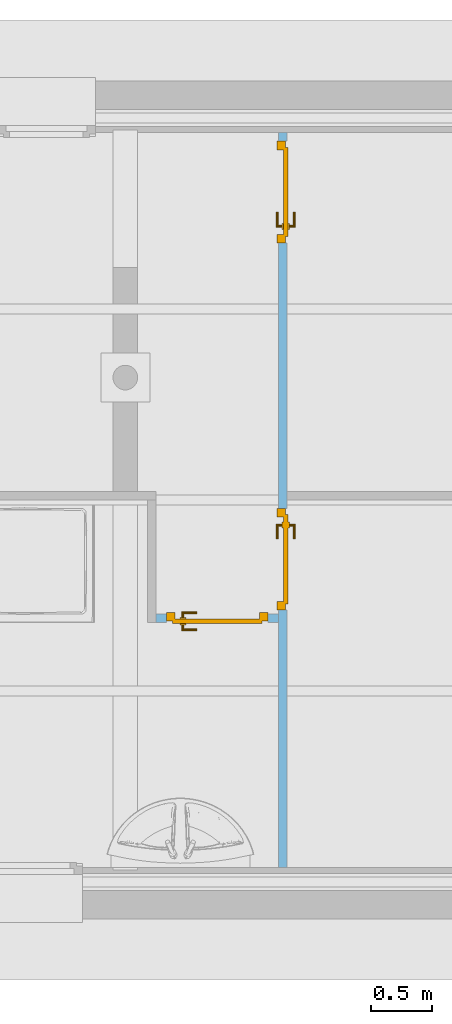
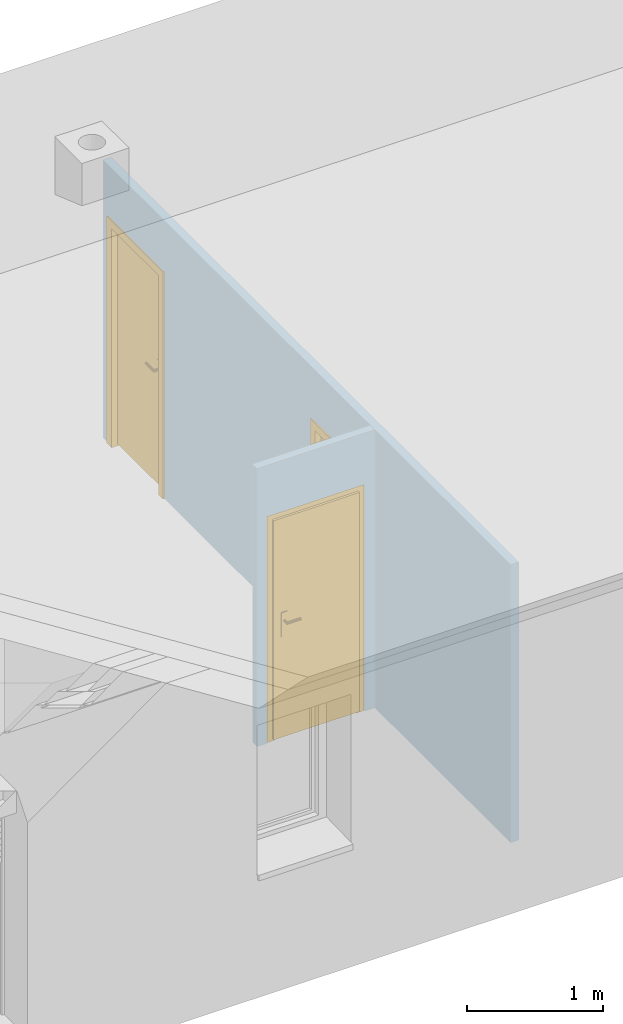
# One storey, part 5 of 7: 3 doors, 3 openings, plus 2 elements that do not belong to this part.
"""IFC4 building model written with IfcOpenShell, lengths in metres."""

from ifc_helpers import new_model, entity, si_unit, converted_unit, frame, frame_2d, origin, origin_with_axes, place, context, subcontext, project, spatial, polyline, rectangle, outline, extrude, faceted_brep, source, transform, mapped, material, layer, layer_set, layer_usage, type_object, element, fill, save


model = new_model("IFC4")

# Units and contexts
model_context = context("Model", 3, precision=1e-05, world=origin())
body_context = subcontext(model_context, "Body", "Model", "MODEL_VIEW")
ifc_project = project(units=[si_unit("LENGTHUNIT", "METRE"), si_unit("AREAUNIT", "SQUARE_METRE"), si_unit("VOLUMEUNIT", "CUBIC_METRE"), si_unit("MASSUNIT", "GRAM", prefix="KILO"), converted_unit("PLANEANGLEUNIT", "DEGREE", entity("IfcPlaneAngleMeasure", 0.0174532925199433), si_unit("PLANEANGLEUNIT", "RADIAN"), dimensions=[0, 0, 0, 0, 0, 0, 0])], contexts=[model_context])

# Building, storey
building_placement = place(None, origin())
building = spatial("IfcBuilding", under=ifc_project, at=building_placement, Name="Projet de Construction", CompositionType="ELEMENT")
storey_placement = place(building_placement, frame((0.0, 0.0, 2.8)))
storey = spatial("IfcBuildingStorey", under=building, at=storey_placement, Name="R+1", CompositionType="ELEMENT", Elevation=2.8)

# Wall, opening, door
ifc_material_1 = material()
ifc_layer_1 = layer(ifc_material_1, 0.07)
ifc_layer_set_1 = layer_set([ifc_layer_1])
ifc_layer_usage_1 = layer_usage(ifc_layer_set_1, "AXIS2", "POSITIVE", 0.0)
wall_1_placement = place(storey_placement, frame((-0.615937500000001, 3.78979166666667, 0.3), z_axis=(0.0, 0.0, 1.0), x_axis=(-1.0, 0.0, 0.0)))
wall_1 = element("IfcWall", 1, at=wall_1_placement, inside=storey, material=ifc_layer_usage_1, context=body_context, shape_type="SweptSolid", body=[
    extrude(rectangle(XDim=0.999999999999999, YDim=0.07, at=frame_2d((0.5, 0.035), x_axis=(1.0, 0.0))), origin_with_axes(), (0.0, 0.0, 1.0), 2.5),
])
opening_1_placement = place(wall_1_placement, frame((0.915, 0.07, 0.0), z_axis=(0.0, -1.0, 0.0), x_axis=(0.0, 0.0, 1.0)))
opening_1 = element("IfcOpeningStandardCase", 2, at=opening_1_placement, cuts=wall_1, Name="Baie de porte", PredefinedType="OPENING", context=body_context, shape_type="SweptSolid", body=[
    extrude(outline(polyline([(0.0, 0.83), (2.04, 0.83), (2.04, 0.0), (0.0, 0.0), (0.0, 0.83)])), origin_with_axes(), (0.0, 0.0, 1.0), 0.07),
])
ifc_material_2 = material()
door_type_1 = type_object("IfcDoorType", Name="1 vantail sol fini, en bois", OperationType="SINGLE_SWING_RIGHT", ParameterTakesPrecedence=False, PredefinedType="DOOR")
shared_shape_1 = source(origin_with_axes(), body_context, "Body", "Brep", [
    faceted_brep([(0.83, 0.0700000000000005, 2.04), (0.76, 0.0700000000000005, 2.04), (0.76, 0.07, 0.0), (0.83, 0.07, 0.0), (0.83, 0.0, 0.0), (0.76, 0.0, 0.0), (0.76, 4.54747350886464e-16, 2.04), (0.83, 4.54747350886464e-16, 2.04)], [[[0, 1, 2, 3]], [[4, 5, 6, 7]], [[3, 4, 7, 0]], [[2, 5, 4, 3]], [[1, 6, 5, 2]], [[0, 7, 6, 1]]], orient=[[False], [False], [False], [False], [False], [False]]),
    faceted_brep([(0.07, 0.0700000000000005, 2.04), (0.0, 0.0700000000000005, 2.04), (0.0, 0.07, 0.0), (0.07, 0.07, 0.0), (0.07, 0.0, 0.0), (0.0, 0.0, 0.0), (0.0, 4.54747350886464e-16, 2.04), (0.07, 4.54747350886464e-16, 2.04)], [[[0, 1, 2, 3]], [[4, 5, 6, 7]], [[3, 4, 7, 0]], [[2, 5, 4, 3]], [[1, 6, 5, 2]], [[0, 7, 6, 1]]], orient=[[False], [False], [False], [False], [False], [False]]),
    faceted_brep([(0.76, 0.0700000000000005, 2.04), (0.07, 0.0700000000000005, 2.04), (0.07, 0.0700000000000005, 1.97), (0.76, 0.0700000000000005, 1.97), (0.76, 4.54747350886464e-16, 1.97), (0.07, 4.54747350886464e-16, 1.97), (0.07, 4.54747350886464e-16, 2.04), (0.76, 4.54747350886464e-16, 2.04)], [[[0, 1, 2, 3]], [[4, 5, 6, 7]], [[3, 4, 7, 0]], [[2, 5, 4, 3]], [[1, 6, 5, 2]], [[0, 7, 6, 1]]], orient=[[False], [False], [False], [False], [False], [False]]),
    faceted_brep([(0.78, 0.0900000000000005, 1.99), (0.05, 0.0900000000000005, 1.99), (0.05, 0.09, 0.021), (0.78, 0.09, 0.021), (0.78, 0.05, 0.021), (0.05, 0.05, 0.021), (0.05, 0.0500000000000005, 1.99), (0.78, 0.0500000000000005, 1.99)], [[[0, 1, 2, 3]], [[4, 5, 6, 7]], [[3, 4, 7, 0]], [[2, 5, 4, 3]], [[1, 6, 5, 2]], [[0, 7, 6, 1]]], orient=[[False], [False], [False], [False], [False], [False]]),
    faceted_brep([(0.72, 0.05, 1.146), (0.67, 0.05, 1.146), (0.67, 0.05, 0.931), (0.72, 0.05, 0.931), (0.72, 0.04, 0.931), (0.67, 0.04, 0.931), (0.67, 0.04, 1.146), (0.72, 0.04, 1.146)], [[[0, 1, 2, 3]], [[4, 5, 6, 7]], [[3, 4, 7, 0]], [[2, 5, 4, 3]], [[1, 6, 5, 2]], [[0, 7, 6, 1]]], orient=[[False], [False], [False], [False], [False], [False]]),
    faceted_brep([(0.695, 0.04, 1.081), (0.69, 0.04, 1.07966025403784), (0.686339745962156, 0.04, 1.076), (0.685, 0.04, 1.071), (0.686339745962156, 0.04, 1.066), (0.69, 0.04, 1.06233974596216), (0.695, 0.04, 1.061), (0.7, 0.04, 1.06233974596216), (0.703660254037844, 0.04, 1.066), (0.705, 0.04, 1.071), (0.703660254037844, 0.04, 1.076), (0.7, 0.04, 1.07966025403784), (0.7, -0.005, 1.07966025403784), (0.695, 0.0, 1.081), (0.703660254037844, -0.00866025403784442, 1.076), (0.705, -0.01, 1.071), (0.703660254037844, -0.00866025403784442, 1.066), (0.7, -0.005, 1.06233974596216), (0.695, 0.0, 1.061), (0.69, 0.005, 1.06233974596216), (0.686339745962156, 0.00866025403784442, 1.066), (0.685, 0.01, 1.071), (0.686339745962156, 0.00866025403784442, 1.076), (0.69, 0.005, 1.07966025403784), (0.58, 0.0, 1.081), (0.58, -0.005, 1.07966025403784), (0.58, -0.00866025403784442, 1.076), (0.58, -0.01, 1.071), (0.58, -0.00866025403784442, 1.066), (0.58, -0.005, 1.06233974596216), (0.58, 0.0, 1.061), (0.58, 0.005, 1.06233974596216), (0.58, 0.00866025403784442, 1.066), (0.58, 0.01, 1.071), (0.58, 0.00866025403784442, 1.076), (0.58, 0.005, 1.07966025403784)], [[[0, 1, 2, 3, 4, 5, 6, 7, 8, 9, 10, 11]], [[0, 11, 12, 13]], [[11, 10, 14, 12]], [[10, 9, 15, 14]], [[9, 8, 16, 15]], [[8, 7, 17, 16]], [[7, 6, 18, 17]], [[6, 5, 19, 18]], [[5, 4, 20, 19]], [[4, 3, 21, 20]], [[3, 2, 22, 21]], [[2, 1, 23, 22]], [[1, 0, 13, 23]], [[24, 25, 26, 27, 28, 29, 30, 31, 32, 33, 34, 35]], [[13, 12, 25, 24]], [[12, 14, 26, 25]], [[14, 15, 27, 26]], [[15, 16, 28, 27]], [[16, 17, 29, 28]], [[17, 18, 30, 29]], [[18, 19, 31, 30]], [[19, 20, 32, 31]], [[20, 21, 33, 32]], [[21, 22, 34, 33]], [[22, 23, 35, 34]], [[23, 13, 24, 35]]], orient=[[False], [False], [False], [False], [False], [False], [False], [False], [False], [False], [False], [False], [False], [False], [False], [False], [False], [False], [False], [False], [False], [False], [False], [False], [False], [False]]),
    faceted_brep([(0.72, 0.09, 1.146), (0.72, 0.09, 0.931), (0.67, 0.09, 0.931), (0.67, 0.09, 1.146), (0.72, 0.1, 0.931), (0.72, 0.1, 1.146), (0.67, 0.1, 1.146), (0.67, 0.1, 0.931)], [[[0, 1, 2, 3]], [[4, 5, 6, 7]], [[1, 0, 5, 4]], [[2, 1, 4, 7]], [[3, 2, 7, 6]], [[0, 3, 6, 5]]], orient=[[False], [False], [False], [False], [False], [False]]),
    faceted_brep([(0.695, 0.1, 1.081), (0.7, 0.1, 1.07966025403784), (0.703660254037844, 0.1, 1.076), (0.705, 0.1, 1.071), (0.703660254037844, 0.1, 1.066), (0.7, 0.1, 1.06233974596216), (0.695, 0.1, 1.061), (0.69, 0.1, 1.06233974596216), (0.686339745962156, 0.1, 1.066), (0.685, 0.1, 1.071), (0.686339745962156, 0.1, 1.076), (0.69, 0.1, 1.07966025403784), (0.695, 0.14, 1.081), (0.7, 0.145, 1.07966025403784), (0.703660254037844, 0.148660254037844, 1.076), (0.705, 0.15, 1.071), (0.703660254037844, 0.148660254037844, 1.066), (0.7, 0.145, 1.06233974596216), (0.695, 0.14, 1.061), (0.69, 0.135, 1.06233974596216), (0.686339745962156, 0.131339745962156, 1.066), (0.685, 0.13, 1.071), (0.686339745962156, 0.131339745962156, 1.076), (0.69, 0.135, 1.07966025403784), (0.58, 0.14, 1.081), (0.58, 0.135, 1.07966025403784), (0.58, 0.131339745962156, 1.076), (0.58, 0.13, 1.071), (0.58, 0.131339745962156, 1.066), (0.58, 0.135, 1.06233974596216), (0.58, 0.14, 1.061), (0.58, 0.145, 1.06233974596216), (0.58, 0.148660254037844, 1.066), (0.58, 0.15, 1.071), (0.58, 0.148660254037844, 1.076), (0.58, 0.145, 1.07966025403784)], [[[0, 1, 2, 3, 4, 5, 6, 7, 8, 9, 10, 11]], [[0, 12, 13, 1]], [[1, 13, 14, 2]], [[2, 14, 15, 3]], [[3, 15, 16, 4]], [[4, 16, 17, 5]], [[5, 17, 18, 6]], [[6, 18, 19, 7]], [[7, 19, 20, 8]], [[8, 20, 21, 9]], [[9, 21, 22, 10]], [[10, 22, 23, 11]], [[11, 23, 12, 0]], [[24, 25, 26, 27, 28, 29, 30, 31, 32, 33, 34, 35]], [[12, 24, 35, 13]], [[13, 35, 34, 14]], [[14, 34, 33, 15]], [[15, 33, 32, 16]], [[16, 32, 31, 17]], [[17, 31, 30, 18]], [[18, 30, 29, 19]], [[19, 29, 28, 20]], [[20, 28, 27, 21]], [[21, 27, 26, 22]], [[22, 26, 25, 23]], [[23, 25, 24, 12]]], orient=[[False], [False], [False], [False], [False], [False], [False], [False], [False], [False], [False], [False], [False], [False], [False], [False], [False], [False], [False], [False], [False], [False], [False], [False], [False], [False]]),
])
door_1_placement = place(opening_1_placement, frame((0.0, 0.83, 0.08), z_axis=(1.0, 0.0, 0.0), x_axis=(0.0, -1.0, 0.0)))
door_1 = element("IfcDoor", 3, at=door_1_placement, inside=storey, type_object=door_type_1, material=ifc_material_2, Name="1 vantail sol fini, en bois", OverallHeight=2.04, OverallWidth=0.83, context=body_context, shape_type="MappedRepresentation", body=[
    mapped(shared_shape_1, transform((0.0, 0.0, 0.0), x_axis=(1.0, 0.0, 0.0), y_axis=(0.0, 1.0, 0.0), z_axis=(0.0, 0.0, 1.0), scale=1.0)),
])
fill(opening_1, door_1)

# Wall, openings, doors
ifc_material_3 = material()
ifc_layer_2 = layer(ifc_material_3, 0.07)
ifc_layer_set_2 = layer_set([ifc_layer_2])
ifc_layer_usage_2 = layer_usage(ifc_layer_set_2, "AXIS2", "POSITIVE", 0.0)
wall_2_placement = place(storey_placement, frame((-0.6159375, 7.71979166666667, 0.3), z_axis=(0.0, 0.0, 1.0), x_axis=(-1.8947806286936e-16, -1.0, 0.0)))
wall_2 = element("IfcWall", 4, at=wall_2_placement, inside=storey, material=ifc_layer_usage_2, context=body_context, shape_type="SweptSolid", body=[
    extrude(rectangle(XDim=6.0, YDim=0.07, at=frame_2d((3.0, 0.035), x_axis=(1.0, 0.0))), origin_with_axes(), (0.0, 0.0, 1.0), 2.5),
])
opening_2_placement = place(wall_2_placement, frame((0.0699999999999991, 1.3263464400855e-17, 0.0), z_axis=(-2.03012210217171e-16, 1.0, 0.0), x_axis=(0.0, 0.0, 1.0)))
opening_2 = element("IfcOpeningStandardCase", 5, at=opening_2_placement, cuts=wall_2, Name="Baie de porte", PredefinedType="OPENING", context=body_context, shape_type="SweptSolid", body=[
    extrude(outline(polyline([(0.0, 0.83), (2.04, 0.83), (2.04, 0.0), (0.0, 0.0), (0.0, 0.83)])), origin_with_axes(), (0.0, 0.0, 1.0), 0.07),
])
opening_3_placement = place(wall_2_placement, frame((3.9, 0.0700000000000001, 0.0), z_axis=(0.0, -1.0, 0.0), x_axis=(0.0, 0.0, 1.0)))
opening_3 = element("IfcOpeningStandardCase", 6, at=opening_3_placement, cuts=wall_2, Name="Baie de porte", PredefinedType="OPENING", context=body_context, shape_type="SweptSolid", body=[
    extrude(outline(polyline([(0.0, 0.83), (2.04, 0.83), (2.04, 0.0), (0.0, 0.0), (0.0, 0.83)])), origin_with_axes(), (0.0, 0.0, 1.0), 0.07),
])
ifc_material_4 = material()
door_type_2 = type_object("IfcDoorType", Name="1 vantail sol fini, en bois", OperationType="SINGLE_SWING_RIGHT", ParameterTakesPrecedence=False, PredefinedType="DOOR")
shared_shape_2 = source(origin_with_axes(), body_context, "Body", "Brep", [
    faceted_brep([(0.83, 0.0700000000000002, 2.04), (0.76, 0.0700000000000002, 2.04), (0.76, 0.07, 0.0), (0.83, 0.07, 0.0), (0.83, 0.0, 0.0), (0.76, 0.0, 0.0), (0.76, 2.27373675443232e-16, 2.04), (0.83, 2.27373675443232e-16, 2.04)], [[[0, 1, 2, 3]], [[4, 5, 6, 7]], [[3, 4, 7, 0]], [[2, 5, 4, 3]], [[1, 6, 5, 2]], [[0, 7, 6, 1]]], orient=[[False], [False], [False], [False], [False], [False]]),
    faceted_brep([(0.07, 0.07, 2.04), (0.0, 0.07, 2.04), (0.0, 0.0699999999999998, 0.0), (0.07, 0.0699999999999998, 0.0), (0.07, -2.27373675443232e-16, 0.0), (0.0, -2.27373675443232e-16, 0.0), (0.0, 0.0, 2.04), (0.07, 0.0, 2.04)], [[[0, 1, 2, 3]], [[4, 5, 6, 7]], [[3, 4, 7, 0]], [[2, 5, 4, 3]], [[1, 6, 5, 2]], [[0, 7, 6, 1]]], orient=[[False], [False], [False], [False], [False], [False]]),
    faceted_brep([(0.76, 0.0700000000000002, 2.04), (0.07, 0.07, 2.04), (0.07, 0.07, 1.97), (0.76, 0.0700000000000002, 1.97), (0.76, 2.27373675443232e-16, 1.97), (0.07, 0.0, 1.97), (0.07, 0.0, 2.04), (0.76, 2.27373675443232e-16, 2.04)], [[[0, 1, 2, 3]], [[4, 5, 6, 7]], [[3, 4, 7, 0]], [[2, 5, 4, 3]], [[1, 6, 5, 2]], [[0, 7, 6, 1]]], orient=[[False], [False], [False], [False], [False], [False]]),
    faceted_brep([(0.78, 0.0900000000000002, 1.99), (0.05, 0.09, 1.99), (0.05, 0.0899999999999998, 0.021), (0.78, 0.09, 0.021), (0.78, 0.05, 0.021), (0.05, 0.0499999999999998, 0.021), (0.05, 0.05, 1.99), (0.78, 0.0500000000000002, 1.99)], [[[0, 1, 2, 3]], [[4, 5, 6, 7]], [[3, 4, 7, 0]], [[2, 5, 4, 3]], [[1, 6, 5, 2]], [[0, 7, 6, 1]]], orient=[[False], [False], [False], [False], [False], [False]]),
    faceted_brep([(0.72, 0.0500000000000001, 1.146), (0.67, 0.0500000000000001, 1.146), (0.67, 0.0500000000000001, 0.931), (0.72, 0.0500000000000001, 0.931), (0.72, 0.0400000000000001, 0.931), (0.67, 0.0400000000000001, 0.931), (0.67, 0.0400000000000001, 1.146), (0.72, 0.0400000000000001, 1.146)], [[[0, 1, 2, 3]], [[4, 5, 6, 7]], [[3, 4, 7, 0]], [[2, 5, 4, 3]], [[1, 6, 5, 2]], [[0, 7, 6, 1]]], orient=[[False], [False], [False], [False], [False], [False]]),
    faceted_brep([(0.695, 0.0400000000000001, 1.081), (0.69, 0.0400000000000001, 1.07966025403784), (0.686339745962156, 0.0400000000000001, 1.076), (0.685, 0.0400000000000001, 1.071), (0.686339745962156, 0.0400000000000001, 1.066), (0.69, 0.0400000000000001, 1.06233974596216), (0.695, 0.0400000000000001, 1.061), (0.7, 0.0400000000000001, 1.06233974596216), (0.703660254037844, 0.0400000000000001, 1.066), (0.705, 0.0400000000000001, 1.071), (0.703660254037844, 0.0400000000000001, 1.076), (0.7, 0.0400000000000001, 1.07966025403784), (0.7, -0.00499999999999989, 1.07966025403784), (0.695, 1.13686837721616e-16, 1.081), (0.703660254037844, -0.00866025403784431, 1.076), (0.705, -0.00999999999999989, 1.071), (0.703660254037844, -0.00866025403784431, 1.066), (0.7, -0.00499999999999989, 1.06233974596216), (0.695, 1.13686837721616e-16, 1.061), (0.69, 0.00500000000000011, 1.06233974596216), (0.686339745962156, 0.00866025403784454, 1.066), (0.685, 0.0100000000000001, 1.071), (0.686339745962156, 0.00866025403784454, 1.076), (0.69, 0.00500000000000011, 1.07966025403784), (0.58, 0.0, 1.081), (0.58, -0.005, 1.07966025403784), (0.58, -0.00866025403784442, 1.076), (0.58, -0.01, 1.071), (0.58, -0.00866025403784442, 1.066), (0.58, -0.005, 1.06233974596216), (0.58, 0.0, 1.061), (0.58, 0.005, 1.06233974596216), (0.58, 0.00866025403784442, 1.066), (0.58, 0.01, 1.071), (0.58, 0.00866025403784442, 1.076), (0.58, 0.005, 1.07966025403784)], [[[0, 1, 2, 3, 4, 5, 6, 7, 8, 9, 10, 11]], [[0, 11, 12, 13]], [[11, 10, 14, 12]], [[10, 9, 15, 14]], [[9, 8, 16, 15]], [[8, 7, 17, 16]], [[7, 6, 18, 17]], [[6, 5, 19, 18]], [[5, 4, 20, 19]], [[4, 3, 21, 20]], [[3, 2, 22, 21]], [[2, 1, 23, 22]], [[1, 0, 13, 23]], [[24, 25, 26, 27, 28, 29, 30, 31, 32, 33, 34, 35]], [[13, 12, 25, 24]], [[12, 14, 26, 25]], [[14, 15, 27, 26]], [[15, 16, 28, 27]], [[16, 17, 29, 28]], [[17, 18, 30, 29]], [[18, 19, 31, 30]], [[19, 20, 32, 31]], [[20, 21, 33, 32]], [[21, 22, 34, 33]], [[22, 23, 35, 34]], [[23, 13, 24, 35]]], orient=[[False], [False], [False], [False], [False], [False], [False], [False], [False], [False], [False], [False], [False], [False], [False], [False], [False], [False], [False], [False], [False], [False], [False], [False], [False], [False]]),
    faceted_brep([(0.72, 0.0900000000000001, 1.146), (0.72, 0.0900000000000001, 0.931), (0.67, 0.0900000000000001, 0.931), (0.67, 0.0900000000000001, 1.146), (0.72, 0.1, 0.931), (0.72, 0.1, 1.146), (0.67, 0.1, 1.146), (0.67, 0.1, 0.931)], [[[0, 1, 2, 3]], [[4, 5, 6, 7]], [[1, 0, 5, 4]], [[2, 1, 4, 7]], [[3, 2, 7, 6]], [[0, 3, 6, 5]]], orient=[[False], [False], [False], [False], [False], [False]]),
    faceted_brep([(0.695, 0.1, 1.081), (0.7, 0.1, 1.07966025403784), (0.703660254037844, 0.1, 1.076), (0.705, 0.1, 1.071), (0.703660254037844, 0.1, 1.066), (0.7, 0.1, 1.06233974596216), (0.695, 0.1, 1.061), (0.69, 0.1, 1.06233974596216), (0.686339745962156, 0.1, 1.066), (0.685, 0.1, 1.071), (0.686339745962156, 0.1, 1.076), (0.69, 0.1, 1.07966025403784), (0.695, 0.14, 1.081), (0.7, 0.145, 1.07966025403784), (0.703660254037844, 0.148660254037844, 1.076), (0.705, 0.15, 1.071), (0.703660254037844, 0.148660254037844, 1.066), (0.7, 0.145, 1.06233974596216), (0.695, 0.14, 1.061), (0.69, 0.135, 1.06233974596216), (0.686339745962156, 0.131339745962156, 1.066), (0.685, 0.13, 1.071), (0.686339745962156, 0.131339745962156, 1.076), (0.69, 0.135, 1.07966025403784), (0.58, 0.14, 1.081), (0.58, 0.135, 1.07966025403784), (0.58, 0.131339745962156, 1.076), (0.58, 0.13, 1.071), (0.58, 0.131339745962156, 1.066), (0.58, 0.135, 1.06233974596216), (0.58, 0.14, 1.061), (0.58, 0.145, 1.06233974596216), (0.58, 0.148660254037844, 1.066), (0.58, 0.15, 1.071), (0.58, 0.148660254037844, 1.076), (0.58, 0.145, 1.07966025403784)], [[[0, 1, 2, 3, 4, 5, 6, 7, 8, 9, 10, 11]], [[0, 12, 13, 1]], [[1, 13, 14, 2]], [[2, 14, 15, 3]], [[3, 15, 16, 4]], [[4, 16, 17, 5]], [[5, 17, 18, 6]], [[6, 18, 19, 7]], [[7, 19, 20, 8]], [[8, 20, 21, 9]], [[9, 21, 22, 10]], [[10, 22, 23, 11]], [[11, 23, 12, 0]], [[24, 25, 26, 27, 28, 29, 30, 31, 32, 33, 34, 35]], [[12, 24, 35, 13]], [[13, 35, 34, 14]], [[14, 34, 33, 15]], [[15, 33, 32, 16]], [[16, 32, 31, 17]], [[17, 31, 30, 18]], [[18, 30, 29, 19]], [[19, 29, 28, 20]], [[20, 28, 27, 21]], [[21, 27, 26, 22]], [[22, 26, 25, 23]], [[23, 25, 24, 12]]], orient=[[False], [False], [False], [False], [False], [False], [False], [False], [False], [False], [False], [False], [False], [False], [False], [False], [False], [False], [False], [False], [False], [False], [False], [False], [False], [False]]),
])
door_2_placement = place(opening_2_placement, frame((0.0, 0.0, -0.01), z_axis=(1.0, 0.0, 0.0), x_axis=(0.0, 1.0, -1.50506240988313e-16)))
door_2 = element("IfcDoor", 7, at=door_2_placement, inside=storey, type_object=door_type_2, material=ifc_material_4, Name="1 vantail sol fini, en bois", OverallHeight=2.04, OverallWidth=0.83, context=body_context, shape_type="MappedRepresentation", body=[
    mapped(shared_shape_2, transform((0.0, 0.0, 0.0), x_axis=(1.0, 0.0, 0.0), y_axis=(0.0, 1.0, 0.0), z_axis=(0.0, 0.0, 1.0), scale=1.0)),
])
fill(opening_2, door_2)
ifc_material_5 = material()
door_type_3 = type_object("IfcDoorType", Name="1 vantail sol fini, en bois", OperationType="SINGLE_SWING_RIGHT", ParameterTakesPrecedence=False, PredefinedType="DOOR")
shared_shape_3 = source(origin_with_axes(), body_context, "Body", "Brep", [
    faceted_brep([(0.0, 0.0699999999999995, 2.04), (0.0, 0.0699999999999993, 0.0), (0.07, 0.0699999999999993, 0.0), (0.07, 0.0699999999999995, 2.04), (0.0, -6.82121026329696e-16, 0.0), (0.0, -4.54747350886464e-16, 2.04), (0.07, -4.54747350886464e-16, 2.04), (0.07, -6.82121026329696e-16, 0.0)], [[[0, 1, 2, 3]], [[4, 5, 6, 7]], [[1, 0, 5, 4]], [[2, 1, 4, 7]], [[3, 2, 7, 6]], [[0, 3, 6, 5]]], orient=[[False], [False], [False], [False], [False], [False]]),
    faceted_brep([(0.76, 0.0699999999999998, 2.04), (0.76, 0.0699999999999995, 0.0), (0.83, 0.0699999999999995, 0.0), (0.83, 0.0699999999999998, 2.04), (0.76, -4.54747350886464e-16, 0.0), (0.76, -2.27373675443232e-16, 2.04), (0.83, -2.27373675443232e-16, 2.04), (0.83, -4.54747350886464e-16, 0.0)], [[[0, 1, 2, 3]], [[4, 5, 6, 7]], [[1, 0, 5, 4]], [[2, 1, 4, 7]], [[3, 2, 7, 6]], [[0, 3, 6, 5]]], orient=[[False], [False], [False], [False], [False], [False]]),
    faceted_brep([(0.07, 0.0699999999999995, 2.04), (0.07, 0.0699999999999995, 1.97), (0.76, 0.0699999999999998, 1.97), (0.76, 0.0699999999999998, 2.04), (0.07, -4.54747350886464e-16, 1.97), (0.07, -4.54747350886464e-16, 2.04), (0.76, -2.27373675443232e-16, 2.04), (0.76, -2.27373675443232e-16, 1.97)], [[[0, 1, 2, 3]], [[4, 5, 6, 7]], [[1, 0, 5, 4]], [[2, 1, 4, 7]], [[3, 2, 7, 6]], [[0, 3, 6, 5]]], orient=[[False], [False], [False], [False], [False], [False]]),
    faceted_brep([(0.05, 0.0899999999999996, 1.99), (0.05, 0.0899999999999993, 0.121), (0.78, 0.0899999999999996, 0.121), (0.78, 0.0899999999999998, 1.99), (0.05, 0.0499999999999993, 0.121), (0.05, 0.0499999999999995, 1.99), (0.78, 0.0499999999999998, 1.99), (0.78, 0.0499999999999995, 0.121)], [[[0, 1, 2, 3]], [[4, 5, 6, 7]], [[1, 0, 5, 4]], [[2, 1, 4, 7]], [[3, 2, 7, 6]], [[0, 3, 6, 5]]], orient=[[False], [False], [False], [False], [False], [False]]),
    faceted_brep([(0.11, 0.0499999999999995, 1.246), (0.11, 0.0499999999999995, 1.031), (0.16, 0.0499999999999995, 1.031), (0.16, 0.0499999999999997, 1.246), (0.11, 0.0399999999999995, 1.031), (0.11, 0.0399999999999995, 1.246), (0.16, 0.0399999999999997, 1.246), (0.16, 0.0399999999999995, 1.031)], [[[0, 1, 2, 3]], [[4, 5, 6, 7]], [[1, 0, 5, 4]], [[2, 1, 4, 7]], [[3, 2, 7, 6]], [[0, 3, 6, 5]]], orient=[[False], [False], [False], [False], [False], [False]]),
    faceted_brep([(0.135, 0.0399999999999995, 1.181), (0.13, 0.0399999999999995, 1.17966025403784), (0.126339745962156, 0.0399999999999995, 1.176), (0.125, 0.0399999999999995, 1.171), (0.126339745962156, 0.0399999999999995, 1.166), (0.13, 0.0399999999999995, 1.16233974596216), (0.135, 0.0399999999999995, 1.161), (0.14, 0.0399999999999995, 1.16233974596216), (0.143660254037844, 0.0399999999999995, 1.166), (0.145, 0.0399999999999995, 1.171), (0.143660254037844, 0.0399999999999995, 1.176), (0.14, 0.0399999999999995, 1.17966025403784), (0.135, -4.54747350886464e-16, 1.181), (0.13, -0.00500000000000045, 1.17966025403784), (0.126339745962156, -0.00866025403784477, 1.176), (0.125, -0.0100000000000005, 1.171), (0.126339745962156, -0.00866025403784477, 1.166), (0.13, -0.00500000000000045, 1.16233974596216), (0.135, -4.54747350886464e-16, 1.161), (0.14, 0.00499999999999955, 1.16233974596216), (0.143660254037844, 0.00866025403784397, 1.166), (0.145, 0.00999999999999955, 1.171), (0.143660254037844, 0.00866025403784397, 1.176), (0.14, 0.00499999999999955, 1.17966025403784), (0.25, -3.41060513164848e-16, 1.181), (0.25, 0.00499999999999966, 1.17966025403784), (0.25, 0.00866025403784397, 1.176), (0.25, 0.00999999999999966, 1.171), (0.25, 0.00866025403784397, 1.166), (0.25, 0.00499999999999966, 1.16233974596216), (0.25, -3.41060513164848e-16, 1.161), (0.25, -0.00500000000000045, 1.16233974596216), (0.25, -0.00866025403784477, 1.166), (0.25, -0.0100000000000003, 1.171), (0.25, -0.00866025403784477, 1.176), (0.25, -0.00500000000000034, 1.17966025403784)], [[[0, 1, 2, 3, 4, 5, 6, 7, 8, 9, 10, 11]], [[0, 12, 13, 1]], [[1, 13, 14, 2]], [[2, 14, 15, 3]], [[3, 15, 16, 4]], [[4, 16, 17, 5]], [[5, 17, 18, 6]], [[6, 18, 19, 7]], [[7, 19, 20, 8]], [[8, 20, 21, 9]], [[9, 21, 22, 10]], [[10, 22, 23, 11]], [[11, 23, 12, 0]], [[24, 25, 26, 27, 28, 29, 30, 31, 32, 33, 34, 35]], [[12, 24, 35, 13]], [[13, 35, 34, 14]], [[14, 34, 33, 15]], [[15, 33, 32, 16]], [[16, 32, 31, 17]], [[17, 31, 30, 18]], [[18, 30, 29, 19]], [[19, 29, 28, 20]], [[20, 28, 27, 21]], [[21, 27, 26, 22]], [[22, 26, 25, 23]], [[23, 25, 24, 12]]], orient=[[False], [False], [False], [False], [False], [False], [False], [False], [False], [False], [False], [False], [False], [False], [False], [False], [False], [False], [False], [False], [False], [False], [False], [False], [False], [False]]),
    faceted_brep([(0.11, 0.0899999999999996, 1.246), (0.16, 0.0899999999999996, 1.246), (0.16, 0.0899999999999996, 1.031), (0.11, 0.0899999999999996, 1.031), (0.11, 0.0999999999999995, 1.031), (0.16, 0.0999999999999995, 1.031), (0.16, 0.0999999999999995, 1.246), (0.11, 0.0999999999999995, 1.246)], [[[0, 1, 2, 3]], [[4, 5, 6, 7]], [[3, 4, 7, 0]], [[2, 5, 4, 3]], [[1, 6, 5, 2]], [[0, 7, 6, 1]]], orient=[[False], [False], [False], [False], [False], [False]]),
    faceted_brep([(0.135, 0.0999999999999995, 1.181), (0.14, 0.0999999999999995, 1.17966025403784), (0.143660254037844, 0.0999999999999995, 1.176), (0.145, 0.0999999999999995, 1.171), (0.143660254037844, 0.0999999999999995, 1.166), (0.14, 0.0999999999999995, 1.16233974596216), (0.135, 0.0999999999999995, 1.161), (0.13, 0.0999999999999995, 1.16233974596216), (0.126339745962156, 0.0999999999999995, 1.166), (0.125, 0.0999999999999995, 1.171), (0.126339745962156, 0.0999999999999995, 1.176), (0.13, 0.0999999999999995, 1.17966025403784), (0.13, 0.145, 1.17966025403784), (0.135, 0.14, 1.181), (0.126339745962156, 0.148660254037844, 1.176), (0.125, 0.15, 1.171), (0.126339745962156, 0.148660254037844, 1.166), (0.13, 0.145, 1.16233974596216), (0.135, 0.14, 1.161), (0.14, 0.135, 1.16233974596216), (0.143660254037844, 0.131339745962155, 1.166), (0.145, 0.13, 1.171), (0.143660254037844, 0.131339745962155, 1.176), (0.14, 0.135, 1.17966025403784), (0.25, 0.14, 1.181), (0.25, 0.145, 1.17966025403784), (0.25, 0.148660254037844, 1.176), (0.25, 0.15, 1.171), (0.25, 0.148660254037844, 1.166), (0.25, 0.145, 1.16233974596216), (0.25, 0.14, 1.161), (0.25, 0.135, 1.16233974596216), (0.25, 0.131339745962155, 1.166), (0.25, 0.13, 1.171), (0.25, 0.131339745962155, 1.176), (0.25, 0.135, 1.17966025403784)], [[[0, 1, 2, 3, 4, 5, 6, 7, 8, 9, 10, 11]], [[0, 11, 12, 13]], [[11, 10, 14, 12]], [[10, 9, 15, 14]], [[9, 8, 16, 15]], [[8, 7, 17, 16]], [[7, 6, 18, 17]], [[6, 5, 19, 18]], [[5, 4, 20, 19]], [[4, 3, 21, 20]], [[3, 2, 22, 21]], [[2, 1, 23, 22]], [[1, 0, 13, 23]], [[24, 25, 26, 27, 28, 29, 30, 31, 32, 33, 34, 35]], [[13, 12, 25, 24]], [[12, 14, 26, 25]], [[14, 15, 27, 26]], [[15, 16, 28, 27]], [[16, 17, 29, 28]], [[17, 18, 30, 29]], [[18, 19, 31, 30]], [[19, 20, 32, 31]], [[20, 21, 33, 32]], [[21, 22, 34, 33]], [[22, 23, 35, 34]], [[23, 13, 24, 35]]], orient=[[False], [False], [False], [False], [False], [False], [False], [False], [False], [False], [False], [False], [False], [False], [False], [False], [False], [False], [False], [False], [False], [False], [False], [False], [False], [False]]),
])
door_3_placement = place(opening_3_placement, frame((0.0, 0.83, 0.0800000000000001), z_axis=(1.0, 0.0, 0.0), x_axis=(0.0, -1.0, -5.25059692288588e-17)))
door_3 = element("IfcDoor", 8, at=door_3_placement, inside=storey, type_object=door_type_3, material=ifc_material_5, Name="1 vantail sol fini, en bois", OverallHeight=2.04, OverallWidth=0.83, context=body_context, shape_type="MappedRepresentation", body=[
    mapped(shared_shape_3, transform((0.0, 0.0, 0.0), x_axis=(1.0, 0.0, 0.0), y_axis=(0.0, 1.0, 0.0), z_axis=(0.0, 0.0, 1.0), scale=1.0)),
])
fill(opening_3, door_3)

save(model, "model.ifc")
